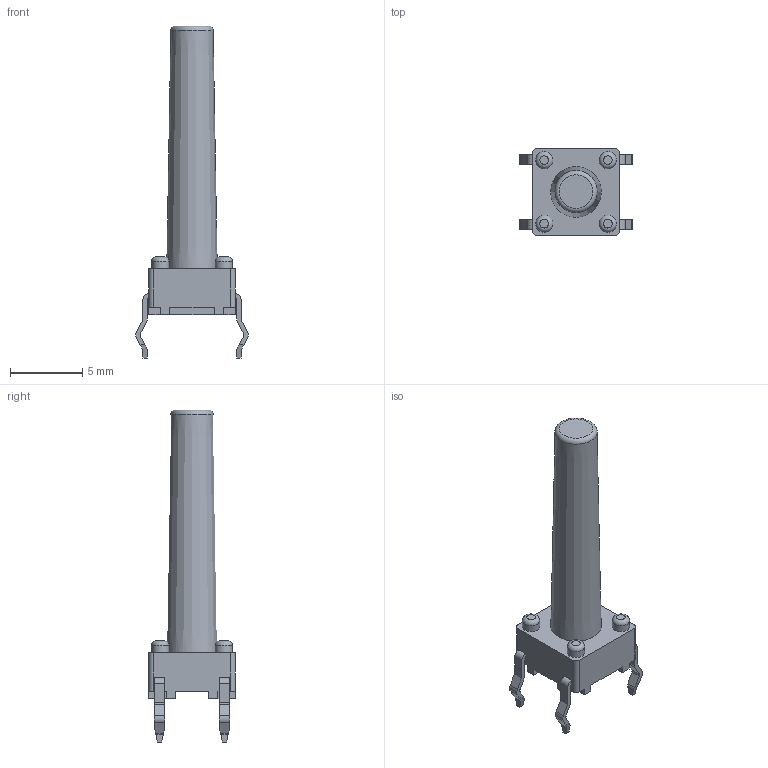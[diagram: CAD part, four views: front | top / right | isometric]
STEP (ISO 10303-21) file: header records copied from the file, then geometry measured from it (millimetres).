
FILE_DESCRIPTION(/* description */ ('STEP AP242 Edition 2','CAx-IF Rec.Pracs.---Representation and Presentation of Product Manufacturing Information (PMI)---4.0---2014-10-13','CAx-IF Rec.Pracs.---3D Tessellated Geometry---0.4---2014-09-14','2;1','CAx-IF Rec.Pracs.---User Defined Attributes---1.5---2016-08-15'),/* implementation_level */ '2;1');
FILE_NAME(/* name */ 'Assembly 1 - SW-TH_4P-L6.0-W6.0-P4.50-LS6.5~SW-TH_4P-L6.0-W6.0-P4.50-LS6.3-H20.0~nxQB_1',/* time_stamp */ '2026-04-02T09:55:28Z',/* author */ (''),/* organization */ (''),/* preprocessor_version */ 'ST-DEVELOPER v20',/* originating_system */ 'ONSHAPE BY PTC INC, 1.212',/* authorisation */ ' ');
FILE_SCHEMA (('AP242_MANAGED_MODEL_BASED_3D_ENGINEERING_MIM_LF { 1 0 10303 442 3 1 4 }'));
Length unit declared in the file: metre
Products named in the file (1): SW-TH_4P-L6.0-W6.0-P4.50-LS6.5~SW-TH_4P-L6.0-W6.0-P4.50-LS6.3-H20.0~n
xQB_1
Bounding box: 7.8 x 6 x 23 mm (x, y, z)
Volume: 245.4 mm3; surface area: 364 mm2
Topology: 1 solids, 1 shells, 357 faces, 973 edges, 646 vertices
Faces by surface type: plane 214, cylinder 71, bspline 66, torus 5, cone 1
Full cylindrical faces by diameter (mm): 1.2 x4
Entity records: 12526 total; most frequent: CARTESIAN_POINT 2843, ORIENTED_EDGE 1924, DIRECTION 1563, EDGE_CURVE 962, LINE 681, VECTOR 681, VERTEX_POINT 645, AXIS2_PLACEMENT_3D 441
